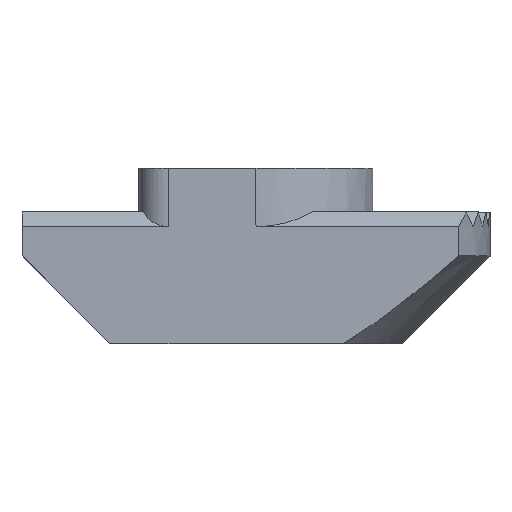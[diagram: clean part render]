
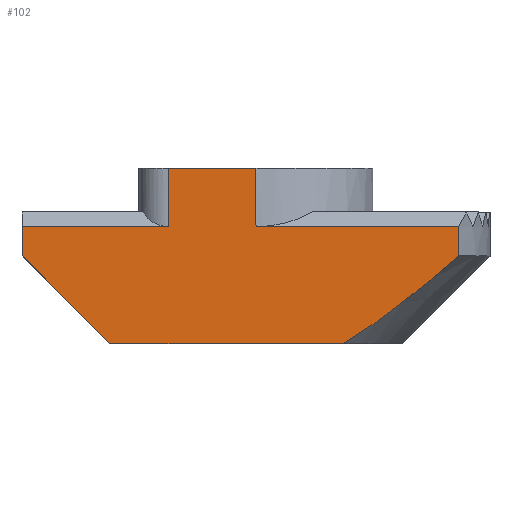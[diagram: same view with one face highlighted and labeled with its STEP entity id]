
A CAD part, top view. The second image highlights one B-rep face of the part: STEP entity #102.
In plain terms, the highlighted planar face has unit normal (0, 0, 1).
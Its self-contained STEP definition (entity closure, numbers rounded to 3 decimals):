
#26 = VECTOR ( 'NONE', #3022, 1000. ) ;
#100 = DIRECTION ( 'NONE',  ( 0., -1., 0. ) ) ;
#102 = ADVANCED_FACE ( 'NONE', ( #951 ), #1243, .F. ) ;
#126 = VERTEX_POINT ( 'NONE', #3285 ) ;
#235 = CARTESIAN_POINT ( 'NONE',  ( -8., 0., 4. ) ) ;
#312 = ORIENTED_EDGE ( 'NONE', *, *, #2565, .T. ) ;
#316 = CARTESIAN_POINT ( 'NONE',  ( 3.698, 0.443, 4. ) ) ;
#361 = CARTESIAN_POINT ( 'NONE',  ( 3.355, 0.213, 4. ) ) ;
#408 = CARTESIAN_POINT ( 'NONE',  ( 4.699, 1.168, 4. ) ) ;
#507 = VECTOR ( 'NONE', #611, 1000. ) ;
#544 = CARTESIAN_POINT ( 'NONE',  ( -4., 6., 4. ) ) ;
#559 = LINE ( 'NONE', #3006, #727 ) ;
#574 = EDGE_CURVE ( 'NONE', #1372, #4173, #559, .T. ) ;
#611 = DIRECTION ( 'NONE',  ( 0., -1., 0. ) ) ;
#649 = ORIENTED_EDGE ( 'NONE', *, *, #4041, .F. ) ;
#668 = VECTOR ( 'NONE', #4260, 1000. ) ;
#693 = LINE ( 'NONE', #3848, #2820 ) ;
#727 = VECTOR ( 'NONE', #1261, 1000. ) ;
#747 = CARTESIAN_POINT ( 'NONE',  ( 3., 0., 4. ) ) ;
#876 = CARTESIAN_POINT ( 'NONE',  ( -3., 4., 4. ) ) ;
#951 = FACE_OUTER_BOUND ( 'NONE', #3510, .T. ) ;
#984 = CARTESIAN_POINT ( 'NONE',  ( -8., 3., 4. ) ) ;
#1004 = CARTESIAN_POINT ( 'NONE',  ( 0., 6., 4. ) ) ;
#1020 = VERTEX_POINT ( 'NONE', #1049 ) ;
#1049 = CARTESIAN_POINT ( 'NONE',  ( -5., 0., 4. ) ) ;
#1082 = VERTEX_POINT ( 'NONE', #984 ) ;
#1094 = CARTESIAN_POINT ( 'NONE',  ( 6.928, 3., 4. ) ) ;
#1142 = ORIENTED_EDGE ( 'NONE', *, *, #574, .F. ) ;
#1243 = PLANE ( 'NONE',  #2609 ) ;
#1261 = DIRECTION ( 'NONE',  ( 0., -1., 0. ) ) ;
#1372 = VERTEX_POINT ( 'NONE', #2050 ) ;
#1376 = VECTOR ( 'NONE', #100, 1000. ) ;
#1470 = ORIENTED_EDGE ( 'NONE', *, *, #1542, .T. ) ;
#1478 = LINE ( 'NONE', #1840, #4271 ) ;
#1491 = DIRECTION ( 'NONE',  ( -1., 0., 0. ) ) ;
#1542 = EDGE_CURVE ( 'NONE', #126, #2059, #693, .T. ) ;
#1544 = B_SPLINE_CURVE_WITH_KNOTS ( 'NONE', 3,
 ( #747, #361, #316, #2125, #408, #3101, #3172, #2445 ),
 .UNSPECIFIED., .F., .F.,
 ( 4, 2, 2, 4 ),
 ( 0., 0.001, 0.002, 0.005 ),
 .UNSPECIFIED. ) ;
#1554 = LINE ( 'NONE', #876, #1376 ) ;
#1608 = DIRECTION ( 'NONE',  ( -1., 0., 0. ) ) ;
#1685 = EDGE_CURVE ( 'NONE', #2624, #126, #1554, .T. ) ;
#1709 = EDGE_CURVE ( 'NONE', #1082, #1020, #2955, .T. ) ;
#1840 = CARTESIAN_POINT ( 'NONE',  ( -8., 4., 4. ) ) ;
#1867 = ORIENTED_EDGE ( 'NONE', *, *, #3516, .T. ) ;
#1876 = LINE ( 'NONE', #544, #2111 ) ;
#1883 = CARTESIAN_POINT ( 'NONE',  ( -3., 6., 4. ) ) ;
#1987 = CARTESIAN_POINT ( 'NONE',  ( -8., 5., 4. ) ) ;
#2050 = CARTESIAN_POINT ( 'NONE',  ( 6.928, 4., 4. ) ) ;
#2059 = VERTEX_POINT ( 'NONE', #3357 ) ;
#2111 = VECTOR ( 'NONE', #1491, 1000. ) ;
#2125 = CARTESIAN_POINT ( 'NONE',  ( 4.371, 0.92, 4. ) ) ;
#2202 = DIRECTION ( 'NONE',  ( -1., 0., 0. ) ) ;
#2225 = DIRECTION ( 'NONE',  ( 0.707, -0.707, 0. ) ) ;
#2232 = EDGE_CURVE ( 'NONE', #4152, #4173, #1544, .T. ) ;
#2251 = CARTESIAN_POINT ( 'NONE',  ( -8., 3., 4. ) ) ;
#2293 = LINE ( 'NONE', #235, #26 ) ;
#2356 = ORIENTED_EDGE ( 'NONE', *, *, #1685, .T. ) ;
#2365 = ORIENTED_EDGE ( 'NONE', *, *, #4065, .T. ) ;
#2370 = EDGE_CURVE ( 'NONE', #1372, #2652, #1478, .T. ) ;
#2445 = CARTESIAN_POINT ( 'NONE',  ( 6.928, 3., 4. ) ) ;
#2565 = EDGE_CURVE ( 'NONE', #2059, #1082, #2670, .T. ) ;
#2586 = CARTESIAN_POINT ( 'NONE',  ( 0., 4., 4. ) ) ;
#2609 = AXIS2_PLACEMENT_3D ( 'NONE', #1987, #4327, #1608 ) ;
#2624 = VERTEX_POINT ( 'NONE', #1883 ) ;
#2652 = VERTEX_POINT ( 'NONE', #2586 ) ;
#2670 = LINE ( 'NONE', #4060, #507 ) ;
#2820 = VECTOR ( 'NONE', #3185, 1000. ) ;
#2869 = VERTEX_POINT ( 'NONE', #1004 ) ;
#2955 = LINE ( 'NONE', #2251, #3113 ) ;
#3006 = CARTESIAN_POINT ( 'NONE',  ( 6.928, 5., 4. ) ) ;
#3022 = DIRECTION ( 'NONE',  ( 1., 0., 0. ) ) ;
#3101 = CARTESIAN_POINT ( 'NONE',  ( 5.673, 1.929, 4. ) ) ;
#3113 = VECTOR ( 'NONE', #2225, 1000. ) ;
#3172 = CARTESIAN_POINT ( 'NONE',  ( 6.304, 2.46, 4. ) ) ;
#3185 = DIRECTION ( 'NONE',  ( -1., 0., 0. ) ) ;
#3208 = ORIENTED_EDGE ( 'NONE', *, *, #1709, .T. ) ;
#3242 = ORIENTED_EDGE ( 'NONE', *, *, #2370, .T. ) ;
#3285 = CARTESIAN_POINT ( 'NONE',  ( -3., 4., 4. ) ) ;
#3357 = CARTESIAN_POINT ( 'NONE',  ( -8., 4., 4. ) ) ;
#3510 = EDGE_LOOP ( 'NONE', ( #312, #3208, #1867, #3730, #1142, #3242, #649, #2365, #2356, #1470 ) ) ;
#3516 = EDGE_CURVE ( 'NONE', #1020, #4152, #2293, .T. ) ;
#3605 = LINE ( 'NONE', #3994, #668 ) ;
#3730 = ORIENTED_EDGE ( 'NONE', *, *, #2232, .T. ) ;
#3848 = CARTESIAN_POINT ( 'NONE',  ( -8., 4., 4. ) ) ;
#3902 = CARTESIAN_POINT ( 'NONE',  ( 3., 0., 4. ) ) ;
#3994 = CARTESIAN_POINT ( 'NONE',  ( 0., 6., 4. ) ) ;
#4041 = EDGE_CURVE ( 'NONE', #2869, #2652, #3605, .T. ) ;
#4060 = CARTESIAN_POINT ( 'NONE',  ( -8., 5., 4. ) ) ;
#4065 = EDGE_CURVE ( 'NONE', #2869, #2624, #1876, .T. ) ;
#4152 = VERTEX_POINT ( 'NONE', #3902 ) ;
#4173 = VERTEX_POINT ( 'NONE', #1094 ) ;
#4260 = DIRECTION ( 'NONE',  ( 0., -1., 0. ) ) ;
#4271 = VECTOR ( 'NONE', #2202, 1000. ) ;
#4327 = DIRECTION ( 'NONE',  ( 0., 0., -1. ) ) ;
